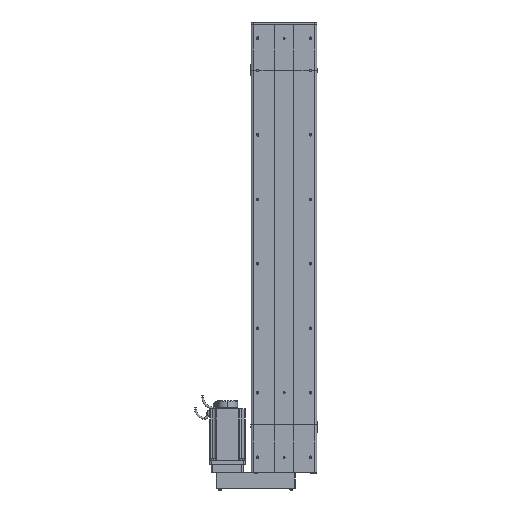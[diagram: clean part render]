
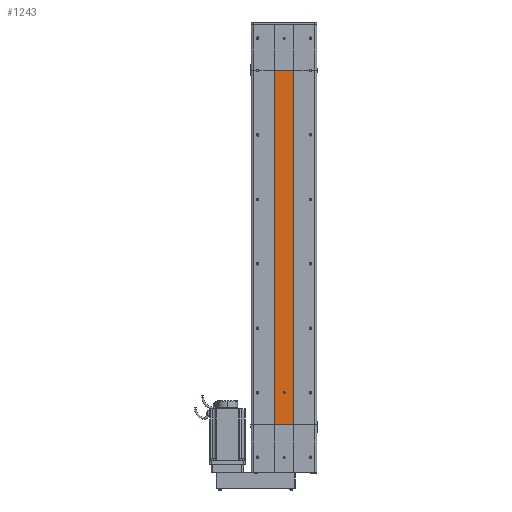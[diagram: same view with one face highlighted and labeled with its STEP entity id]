
A CAD part, front view. The second image highlights one B-rep face of the part: STEP entity #1243.
In plain terms, the highlighted planar face has unit normal (0, -1, 0).
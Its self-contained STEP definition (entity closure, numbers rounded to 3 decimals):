
#938 = EDGE_LOOP ( 'NONE', ( #982, #1091, #986, #987 ) ) ;
#940 = EDGE_CURVE ( 'NONE', #1065, #13775, #2312, .T. ) ;
#943 = EDGE_LOOP ( 'NONE', ( #951, #1090 ) ) ;
#951 = ORIENTED_EDGE ( 'NONE', *, *, #1241, .F. ) ;
#982 = ORIENTED_EDGE ( 'NONE', *, *, #13771, .T. ) ;
#986 = ORIENTED_EDGE ( 'NONE', *, *, #1000, .F. ) ;
#987 = ORIENTED_EDGE ( 'NONE', *, *, #1245, .T. ) ;
#1000 = EDGE_CURVE ( 'NONE', #1341, #1065, #2424, .T. ) ;
#1065 = VERTEX_POINT ( 'NONE', #2561 ) ;
#1090 = ORIENTED_EDGE ( 'NONE', *, *, #13507, .F. ) ;
#1091 = ORIENTED_EDGE ( 'NONE', *, *, #940, .F. ) ;
#1241 = EDGE_CURVE ( 'NONE', #13313, #13319, #2755, .T. ) ;
#1243 = ADVANCED_FACE ( 'NONE', ( #2597, #2758 ), #2756, .F. ) ;
#1245 = EDGE_CURVE ( 'NONE', #1341, #13774, #2735, .T. ) ;
#1341 = VERTEX_POINT ( 'NONE', #2870 ) ;
#2298 = DIRECTION ( 'NONE',  ( 0., 0., 1. ) ) ;
#2299 = VECTOR ( 'NONE', #2298, 1000. ) ;
#2311 = CARTESIAN_POINT ( 'NONE',  ( -30., -32.5, 0. ) ) ;
#2312 = LINE ( 'NONE', #2311, #2299 ) ;
#2419 = DIRECTION ( 'NONE',  ( -1., 0., 0. ) ) ;
#2420 = VECTOR ( 'NONE', #2419, 1000. ) ;
#2423 = CARTESIAN_POINT ( 'NONE',  ( -30., -32.5, 0. ) ) ;
#2424 = LINE ( 'NONE', #2423, #2420 ) ;
#2561 = CARTESIAN_POINT ( 'NONE',  ( -30., -32.5, 0. ) ) ;
#2597 = FACE_BOUND ( 'NONE', #943, .T. ) ;
#2612 = AXIS2_PLACEMENT_3D ( 'NONE', #2730, #2729, #2728 ) ;
#2728 = DIRECTION ( 'NONE',  ( 0., 0., 1. ) ) ;
#2729 = DIRECTION ( 'NONE',  ( 0., 1., 0. ) ) ;
#2730 = CARTESIAN_POINT ( 'NONE',  ( -30., -32.5, 0. ) ) ;
#2731 = DIRECTION ( 'NONE',  ( 0., 0., 1. ) ) ;
#2732 = VECTOR ( 'NONE', #2731, 1000. ) ;
#2734 = CARTESIAN_POINT ( 'NONE',  ( 30., -32.5, 0. ) ) ;
#2735 = LINE ( 'NONE', #2734, #2732 ) ;
#2737 = DIRECTION ( 'NONE',  ( 0., 0., -1. ) ) ;
#2738 = DIRECTION ( 'NONE',  ( 0., -1., 0. ) ) ;
#2753 = CARTESIAN_POINT ( 'NONE',  ( 0., -32.5, 100. ) ) ;
#2754 = AXIS2_PLACEMENT_3D ( 'NONE', #2753, #2738, #2737 ) ;
#2755 = CIRCLE ( 'NONE', #2754, 3. ) ;
#2756 = PLANE ( 'NONE',  #2612 ) ;
#2758 = FACE_OUTER_BOUND ( 'NONE', #938, .T. ) ;
#2870 = CARTESIAN_POINT ( 'NONE',  ( 30., -32.5, 0. ) ) ;
#13313 = VERTEX_POINT ( 'NONE', #25294 ) ;
#13319 = VERTEX_POINT ( 'NONE', #25288 ) ;
#13507 = EDGE_CURVE ( 'NONE', #13319, #13313, #21347, .T. ) ;
#13771 = EDGE_CURVE ( 'NONE', #13774, #13775, #21649, .T. ) ;
#13774 = VERTEX_POINT ( 'NONE', #21643 ) ;
#13775 = VERTEX_POINT ( 'NONE', #21645 ) ;
#21331 = DIRECTION ( 'NONE',  ( 0., 0., -1. ) ) ;
#21332 = DIRECTION ( 'NONE',  ( 0., -1., 0. ) ) ;
#21333 = CARTESIAN_POINT ( 'NONE',  ( 0., -32.5, 100. ) ) ;
#21334 = AXIS2_PLACEMENT_3D ( 'NONE', #21333, #21332, #21331 ) ;
#21347 = CIRCLE ( 'NONE', #21334, 3. ) ;
#21643 = CARTESIAN_POINT ( 'NONE',  ( 30., -32.5, 1100. ) ) ;
#21645 = CARTESIAN_POINT ( 'NONE',  ( -30., -32.5, 1100. ) ) ;
#21646 = DIRECTION ( 'NONE',  ( -1., 0., 0. ) ) ;
#21647 = VECTOR ( 'NONE', #21646, 1000. ) ;
#21648 = CARTESIAN_POINT ( 'NONE',  ( -30., -32.5, 1100. ) ) ;
#21649 = LINE ( 'NONE', #21648, #21647 ) ;
#25288 = CARTESIAN_POINT ( 'NONE',  ( 0., -32.5, 103. ) ) ;
#25294 = CARTESIAN_POINT ( 'NONE',  ( 0., -32.5, 97. ) ) ;
